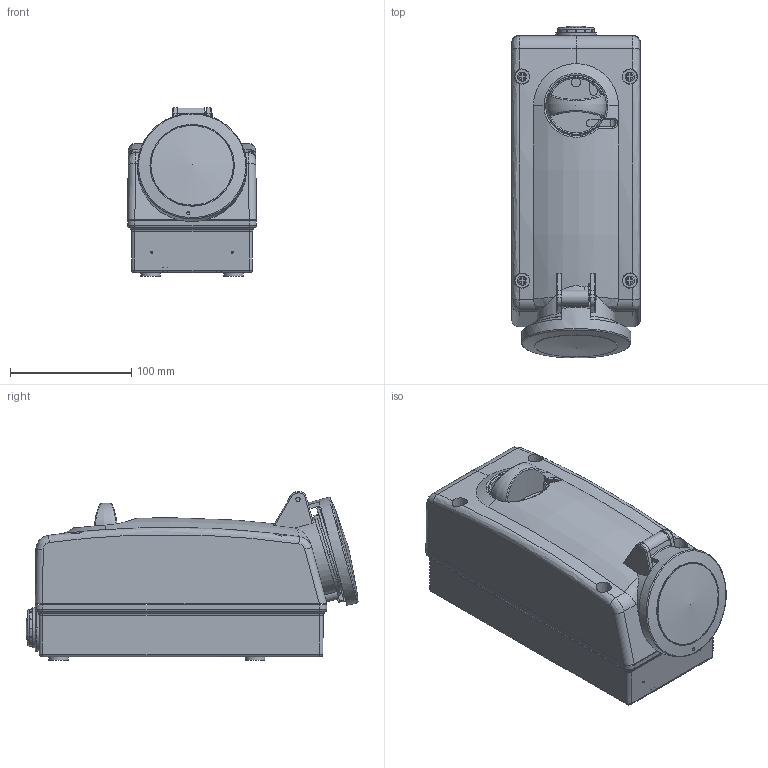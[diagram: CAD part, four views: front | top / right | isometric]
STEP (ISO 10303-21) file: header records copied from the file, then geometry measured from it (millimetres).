
FILE_DESCRIPTION(/* description */ (''),/* implementation_level */ '2;1');
FILE_NAME(/* name */ '4003564.stp',/* time_stamp */ '2016-10-26T10:24:47+02:00',/* author */ (''),/* organization */ (''),/* preprocessor_version */ 'ST-DEVELOPER v16',/* originating_system */ 'SIEMENS PLM Software NX 11.0',/* authorisation */ '');
FILE_SCHEMA (('AUTOMOTIVE_DESIGN { 1 0 10303 214 3 1 1 1 }'));
Length unit declared in the file: millimetre
Products named in the file (1): 4003564_LINKEDEXT_jt
Bounding box: 106 x 273.38 x 138.89 mm (x, y, z)
Surface area: 159616.2 mm2 (no closed solid volume)
Topology: 0 solids, 47 shells, 348 faces, 1314 edges, 962 vertices
Faces by surface type: plane 133, cylinder 90, bspline 56, cone 37, torus 22, sphere 9, revolution 1
Full cylindrical faces by diameter (mm): 1 x2, 2.5 x1, 4 x1, 16 x4, 33.2 x1, 49.7 x1, 68 x1, 69.5 x1, 90 x1
Entity records: 27742 total; most frequent: CARTESIAN_POINT 16027, DIRECTION 1916, ORIENTED_EDGE 1838, EDGE_CURVE 1241, VERTEX_POINT 935, AXIS2_PLACEMENT_3D 732, LINE 451, VECTOR 451
